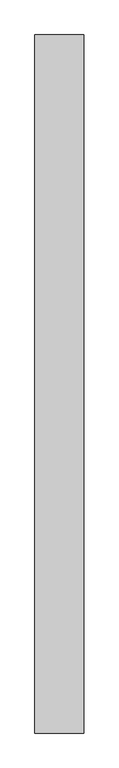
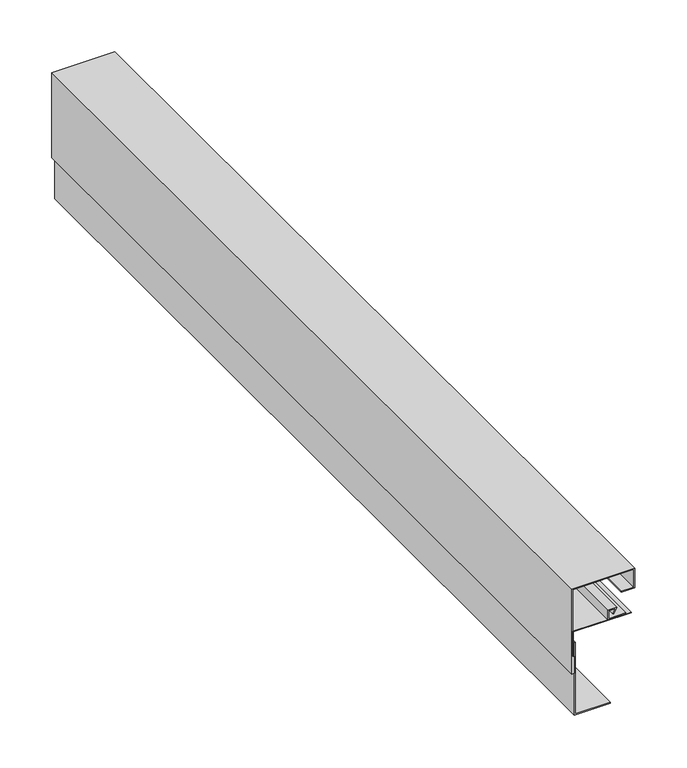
"""IFC4 building model written with IfcOpenShell, lengths in millimetres: proxy geometry, Alubel Alu-skin Lower closure Type1 : Alubel Alu-skin Lower closure Type1."""

from ifc_helpers import new_model, si_unit, frame, origin, place, context, project, spatial, polyline, outline, extrude, source, transform, mapped, element, save


def generic_models_a6d176bb(model_context):
    return source(origin(), model_context, "Body", "SweptSolid", [
        extrude(outline(polyline([(110.0, 0.0), (99.0, 0.0), (99.0, 20.0), (100.0, 20.0), (100.0, 1.0), (109.0, 1.0), (109.0, 8.2679492), (104.4378222, 5.6339746), (103.9378222, 6.5), (110.0, 10.0), (110.0, 0.0)])), frame((0.0, 0.0, 0.0), z_axis=(0.0, 1.0, 0.0), x_axis=(0.0, 0.0, 1.0)), (0.0, 0.0, 1.0), 1000.0),
        extrude(outline(polyline([(99.0, -39.0), (70.0, -39.0), (70.0, -38.0), (98.0, -38.0), (98.0, 26.0), (99.0, 26.0), (99.0, -39.0)])), frame((0.0, 0.0, 0.0), z_axis=(0.0, 1.0, 0.0), x_axis=(0.0, 0.0, 1.0)), (0.0, 0.0, 1.0), 1000.0),
        extrude(outline(polyline([(49.0, -37.0), (69.0, -37.0), (69.0, -38.0), (50.0, -38.0), (50.0, -39.0), (148.0, -39.0), (148.0, 29.0), (127.0, 29.0), (127.0, 15.0), (126.0, 15.0), (126.0, 30.0), (149.0, 30.0), (149.0, -40.0), (49.0, -40.0), (49.0, -37.0)])), frame((0.0, 0.0, 0.0), z_axis=(0.0, 1.0, 0.0), x_axis=(0.0, 0.0, 1.0)), (0.0, 0.0, 1.0), 1000.0),
        extrude(outline(polyline([(0.0, 3.0), (1.0, 3.0), (1.0, -36.0), (85.0, -36.0), (85.0, -37.0), (0.0, -37.0), (0.0, 3.0)])), frame((0.0, 0.0, 0.0), z_axis=(0.0, 1.0, 0.0), x_axis=(0.0, 0.0, 1.0)), (0.0, 0.0, 1.0), 1000.0),
    ])


if __name__ == "__main__":
    model = new_model("IFC4")
    model_context = context("Model", 3, world=origin())
    ifc_project = project(units=[si_unit("LENGTHUNIT", "METRE", prefix="MILLI")], contexts=[model_context])
    site = spatial("IfcSite", under=ifc_project)
    building = spatial("IfcBuilding", under=site)
    placement = place(None, origin())
    generic_models_shape = generic_models_a6d176bb(model_context)
    element("IfcBuildingElementProxy", 1, Name="Alubel Alu-skin Lower closure Type1 : Alubel Alu-skin Lower closure Type1", ObjectType="Alubel Alu-skin Lower closure Type1 : Alubel Alu-skin Lower closure Type1", at=placement, inside=building, context=model_context, shape_type="MappedRepresentation", body=[
        mapped(generic_models_shape, transform((0.0, 0.0, 0.0), x_axis=(1.0, 0.0, 0.0), y_axis=(0.0, 1.0, 0.0), z_axis=(0.0, 0.0, 1.0))),
    ])
    save(model, "model.ifc")
